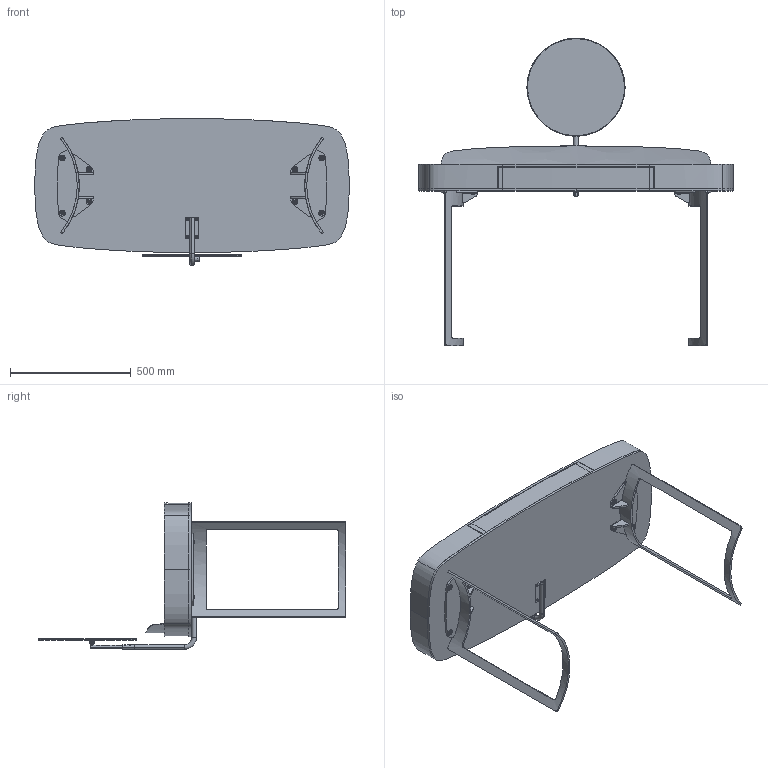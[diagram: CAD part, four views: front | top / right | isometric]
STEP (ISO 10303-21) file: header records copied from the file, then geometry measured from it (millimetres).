
FILE_DESCRIPTION (( 'STEP AP203' ), '1' );
FILE_NAME ('LY02W_Lyra Vanity_130x61x75h.STEP', '2024-08-06T07:15:34', ( '' ), ( '' ), 'SwSTEP 2.0', 'SolidWorks 2022', '' );
FILE_SCHEMA (( 'CONFIG_CONTROL_DESIGN' ));
Length unit declared in the file: millimetre
Products named in the file (20): SCR000000GXX-00-SCRIVANIE GAMBA_GAMBA H.64cm PER  ICON; SCR000000X_04-00-BASE TELESCOPICA; M8xXXmm_M8X30mm; SCR000000X_08-00-BOCCOLA FISSAGGIO TUBO; SCR000000X_02-00-CALOTTA SPECCHIO Ø40; SCR000000G69-02-GAMBA H.69cm PER ICON E LIRA_GAMBA 64; SCR000000X_10-00-TUBO INTERNO PER SPECCHIO; LY02W_Lyra Vanity_130x61x75h; SCR000000SPC-00- SCRIVANIE SPECCHIO TONDO; SCR000000X-03-SCRIVANIE STRUTTURA PER SPECCHIO TONDO_SCR000000A SPECCHIO PER LYRA; LIR0000000PNO_02-00-LIRA LACCATO SOTTOSCRIVANIA; rondella M8_8X24; SCR000000Y_03-03-TUBOLARE TELESCOPICO BASE_SCR000000B STRUTTURA TUBOLARE PER AURI; SCR000000X_05-00-PIASTRINA ANCORAGGIO PIANO; SCR000000Y_09-00-TUBOLARE TELESCOPICO INTERNO; LIR0000000PNO_01-00-LIRA STRUTTURA SCRIVANIA; SCR000000X_03-00-BOCCOLA FISSAGGIO SPECCHIO; SCR000000X_01-00-CALOTTA SPECCHIO COMPLETA; SCR000000GXX-00-PIASTRA DI FISSAGGIO SUPERIORE; SCRC000V05-00-LYRA_ICON CORNICE TOP VERNICIATA V05 BRONZO GOFFRATO.SLDDRW_piegata
Assembly tree (34 placements, depth 4):
  LY02W_Lyra Vanity_130x61x75h
    LIR0000000PNO_02-00-LIRA LACCATO SOTTOSCRIVANIA
    LIR0000000PNO_01-00-LIRA STRUTTURA SCRIVANIA
    SCR000000SPC-00- SCRIVANIE SPECCHIO TONDO
    SCR000000G69-02-GAMBA H.69cm PER ICON E LIRA_GAMBA 64  x2
      SCR000000GXX-00-SCRIVANIE GAMBA_GAMBA H.64cm PER  ICON
      SCR000000GXX-00-PIASTRA DI FISSAGGIO SUPERIORE
    SCRC000V05-00-LYRA_ICON CORNICE TOP VERNICIATA V05 BRONZO GOFFRATO.SLDDRW_piegata
    rondella M8_8X24  x8
    M8xXXmm_M8X30mm  x8
    SCR000000X-03-SCRIVANIE STRUTTURA PER SPECCHIO TONDO_SCR000000A SPECCHIO PER LYRA
      SCR000000X_01-00-CALOTTA SPECCHIO COMPLETA
        SCR000000X_02-00-CALOTTA SPECCHIO Ø40
        SCR000000X_03-00-BOCCOLA FISSAGGIO SPECCHIO
      SCR000000X_10-00-TUBO INTERNO PER SPECCHIO
        SCR000000Y_09-00-TUBOLARE TELESCOPICO INTERNO
        SCR000000X_08-00-BOCCOLA FISSAGGIO TUBO
      SCR000000X_04-00-BASE TELESCOPICA
        SCR000000Y_03-03-TUBOLARE TELESCOPICO BASE_SCR000000B STRUTTURA TUBOLARE PER AURI
        SCR000000X_05-00-PIASTRINA ANCORAGGIO PIANO
Bounding box: 1302 x 1272.48 x 607 mm (x, y, z)
Volume: 52875264.4 mm3; surface area: 5536733.2 mm2
Topology: 36 solids, 36 shells, 901 faces, 2177 edges, 1336 vertices
Faces by surface type: plane 327, cylinder 317, cone 114, torus 104, bspline 39
Entity records: 19453 total; most frequent: CARTESIAN_POINT 5784, ORIENTED_EDGE 2350, DIRECTION 2231, EDGE_CURVE 1175, AXIS2_PLACEMENT_3D 857, VERTEX_POINT 760, EDGE_LOOP 553, VECTOR 517
